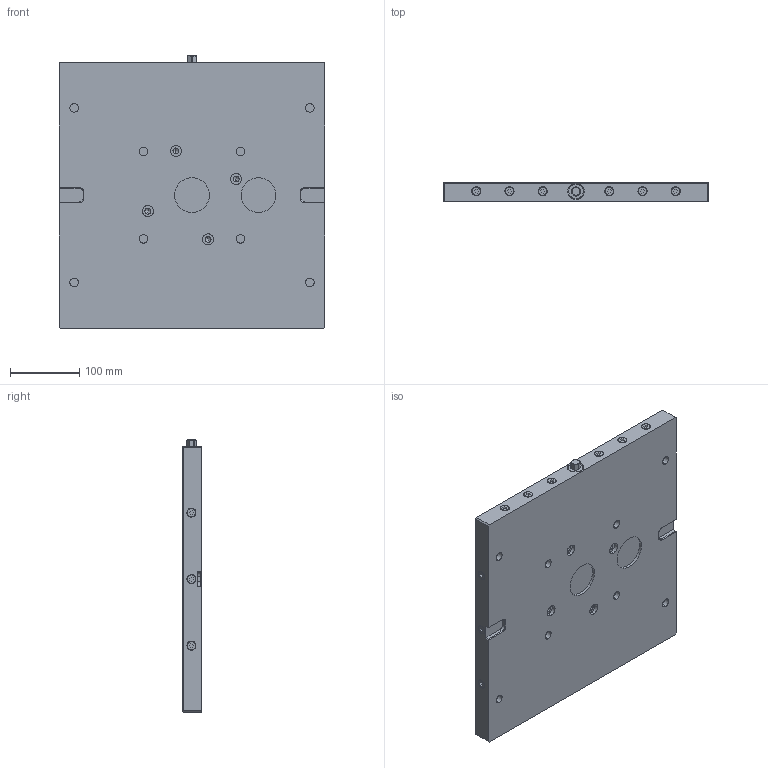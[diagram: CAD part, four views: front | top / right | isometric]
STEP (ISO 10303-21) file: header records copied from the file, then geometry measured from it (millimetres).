
FILE_DESCRIPTION (( 'STEP AP203' ), '1' );
FILE_NAME ('45741.STEP', '2016-09-27T06:42:45', ( '' ), ( '' ), 'SwSTEP 2.0', 'SolidWorks 2015', '' );
FILE_SCHEMA (( 'CONFIG_CONTROL_DESIGN' ));
Length unit declared in the file: millimetre
Products named in the file (1): 45741
Bounding box: 384 x 27 x 393 mm (x, y, z)
Volume: 3442662 mm3; surface area: 497521.6 mm2
Topology: 29 solids, 29 shells, 673 faces, 1602 edges, 993 vertices
Faces by surface type: plane 269, cylinder 262, cone 110, torus 32
Entity records: 21559 total; most frequent: CARTESIAN_POINT 5912, DIRECTION 3285, ORIENTED_EDGE 3188, EDGE_CURVE 1594, AXIS2_PLACEMENT_3D 1225, VERTEX_POINT 993, LINE 835, VECTOR 835
